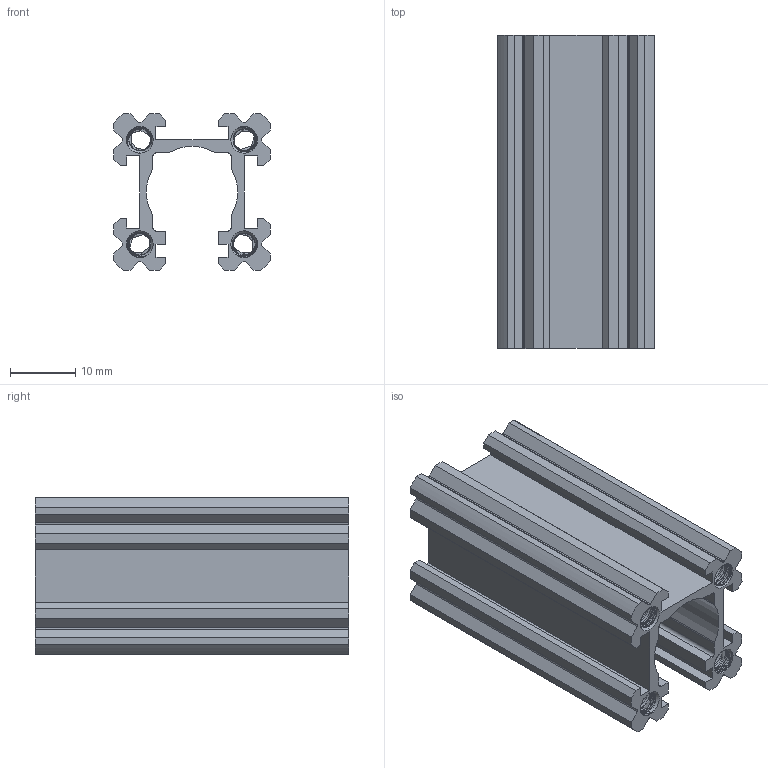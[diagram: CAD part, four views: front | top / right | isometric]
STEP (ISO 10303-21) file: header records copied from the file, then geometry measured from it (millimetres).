
FILE_DESCRIPTION (( 'STEP AP203' ), '1' );
FILE_NAME ('1118-0024-0048.STEP', '2017-09-21T18:10:00', ( '' ), ( '' ), 'SwSTEP 2.0', 'SolidWorks 2016', '' );
FILE_SCHEMA (( 'CONFIG_CONTROL_DESIGN' ));
Products named in the file (1): 1118-0024-0048
Bounding box: 24 x 48 x 24 mm (x, y, z)
Volume: 8825.1 mm3; surface area: 12228.9 mm2
Topology: 1 solids, 1 shells, 801 faces, 2389 edges, 1590 vertices
Faces by surface type: cylinder 676, plane 89, cone 20, bspline 16
Entity records: 49920 total; most frequent: CARTESIAN_POINT 32205, ORIENTED_EDGE 4778, DIRECTION 2745, EDGE_CURVE 2389, VERTEX_POINT 1590, VECTOR 925, LINE 925, AXIS2_PLACEMENT_3D 910
